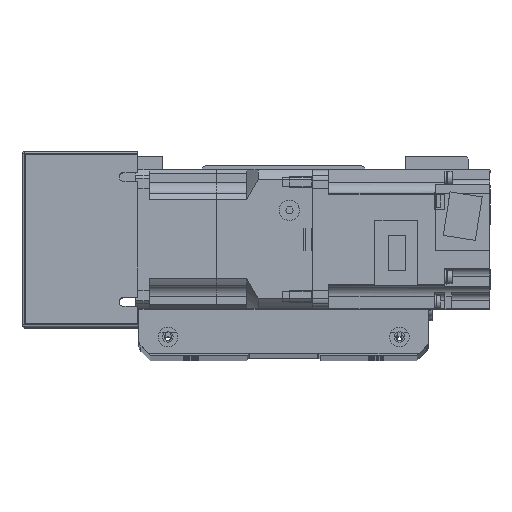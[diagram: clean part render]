
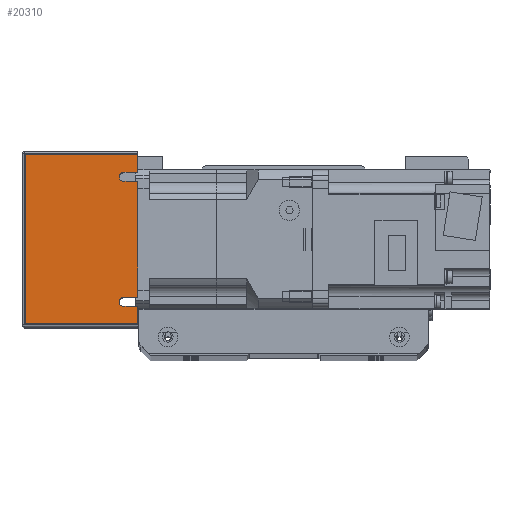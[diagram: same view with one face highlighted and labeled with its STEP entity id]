
A CAD part, top view. The second image highlights one B-rep face of the part: STEP entity #20310.
In plain terms, the highlighted planar face has unit normal (0, 0, 1) as drawn and (-1, 0, 0) by its records, which use the part's own axes.
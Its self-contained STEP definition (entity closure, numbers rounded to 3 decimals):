
#706=PLANE('',#22516);
#2036=LINE('',#34406,#3660);
#2045=LINE('',#34425,#3669);
#2052=LINE('',#34442,#3676);
#2060=LINE('',#34460,#3684);
#2073=LINE('',#34499,#3697);
#2078=LINE('',#34511,#3702);
#2082=LINE('',#34523,#3706);
#2085=LINE('',#34533,#3709);
#2086=LINE('',#34535,#3710);
#2087=LINE('',#34536,#3711);
#3660=VECTOR('',#27893,10.);
#3669=VECTOR('',#27906,10.);
#3676=VECTOR('',#27917,10.);
#3684=VECTOR('',#27929,10.);
#3697=VECTOR('',#27972,10.);
#3702=VECTOR('',#27983,10.);
#3706=VECTOR('',#27993,10.);
#3709=VECTOR('',#28004,10.);
#3710=VECTOR('',#28005,10.);
#3711=VECTOR('',#28006,10.);
#6088=FACE_OUTER_BOUND('',#7736,.T.);
#7736=EDGE_LOOP('',(#18237,#18238,#18239,#18240,#18241,#18242,#18243,#18244,
#18245,#18246,#18247,#18248));
#8900=CIRCLE('',#22494,2.);
#8905=CIRCLE('',#22502,2.);
#10613=VERTEX_POINT('',#34403);
#10614=VERTEX_POINT('',#34405);
#10620=VERTEX_POINT('',#34419);
#10622=VERTEX_POINT('',#34423);
#10629=VERTEX_POINT('',#34439);
#10630=VERTEX_POINT('',#34441);
#10637=VERTEX_POINT('',#34457);
#10638=VERTEX_POINT('',#34459);
#10649=VERTEX_POINT('',#34497);
#10658=VERTEX_POINT('',#34522);
#10661=VERTEX_POINT('',#34532);
#10662=VERTEX_POINT('',#34534);
#13188=EDGE_CURVE('',#10614,#10613,#2036,.T.);
#13197=EDGE_CURVE('',#10620,#10622,#2045,.T.);
#13204=EDGE_CURVE('',#10630,#10629,#2052,.T.);
#13212=EDGE_CURVE('',#10638,#10637,#2060,.T.);
#13218=EDGE_CURVE('',#10622,#10614,#8900,.T.);
#13229=EDGE_CURVE('',#10637,#10630,#8905,.T.);
#13234=EDGE_CURVE('',#10649,#10629,#2073,.T.);
#13241=EDGE_CURVE('',#10638,#10613,#2078,.T.);
#13247=EDGE_CURVE('',#10620,#10658,#2082,.T.);
#13252=EDGE_CURVE('',#10661,#10649,#2085,.T.);
#13253=EDGE_CURVE('',#10662,#10661,#2086,.T.);
#13254=EDGE_CURVE('',#10658,#10662,#2087,.T.);
#18237=ORIENTED_EDGE('',*,*,#13188,.T.);
#18238=ORIENTED_EDGE('',*,*,#13241,.F.);
#18239=ORIENTED_EDGE('',*,*,#13212,.T.);
#18240=ORIENTED_EDGE('',*,*,#13229,.T.);
#18241=ORIENTED_EDGE('',*,*,#13204,.T.);
#18242=ORIENTED_EDGE('',*,*,#13234,.F.);
#18243=ORIENTED_EDGE('',*,*,#13252,.F.);
#18244=ORIENTED_EDGE('',*,*,#13253,.F.);
#18245=ORIENTED_EDGE('',*,*,#13254,.F.);
#18246=ORIENTED_EDGE('',*,*,#13247,.F.);
#18247=ORIENTED_EDGE('',*,*,#13197,.T.);
#18248=ORIENTED_EDGE('',*,*,#13218,.T.);
#20310=ADVANCED_FACE('',(#6088),#706,.T.);
#22494=AXIS2_PLACEMENT_3D('',#34472,#27939,#27940);
#22502=AXIS2_PLACEMENT_3D('',#34490,#27961,#27962);
#22516=AXIS2_PLACEMENT_3D('',#34531,#28002,#28003);
#27893=DIRECTION('',(0.,0.,1.));
#27906=DIRECTION('',(0.,0.,-1.));
#27917=DIRECTION('',(0.,0.,1.));
#27929=DIRECTION('',(0.,0.,-1.));
#27939=DIRECTION('center_axis',(1.,0.,0.));
#27940=DIRECTION('ref_axis',(0.,0.,1.));
#27961=DIRECTION('center_axis',(1.,0.,0.));
#27962=DIRECTION('ref_axis',(0.,0.,1.));
#27972=DIRECTION('',(0.,-1.,0.));
#27983=DIRECTION('',(0.,-1.,0.));
#27993=DIRECTION('',(0.,-1.,0.));
#28002=DIRECTION('center_axis',(-1.,0.,0.));
#28003=DIRECTION('ref_axis',(0.,-1.,0.));
#28004=DIRECTION('',(0.,0.,1.));
#28005=DIRECTION('',(0.,1.,0.));
#28006=DIRECTION('',(0.,0.,-1.));
#34403=CARTESIAN_POINT('',(-91.,-25.,25.));
#34405=CARTESIAN_POINT('',(-91.,-25.,19.));
#34406=CARTESIAN_POINT('',(-91.,-25.,9.5));
#34419=CARTESIAN_POINT('',(-91.,-29.,25.));
#34423=CARTESIAN_POINT('',(-91.,-29.,19.));
#34425=CARTESIAN_POINT('',(-91.,-29.,15.178));
#34439=CARTESIAN_POINT('',(-91.,29.,25.));
#34441=CARTESIAN_POINT('',(-91.,29.,19.));
#34442=CARTESIAN_POINT('',(-91.,29.,9.5));
#34457=CARTESIAN_POINT('',(-91.,25.,19.));
#34459=CARTESIAN_POINT('',(-91.,25.,25.));
#34460=CARTESIAN_POINT('',(-91.,25.,15.178));
#34472=CARTESIAN_POINT('Origin',(-91.,-27.,19.));
#34490=CARTESIAN_POINT('Origin',(-91.,27.,19.));
#34497=CARTESIAN_POINT('',(-91.,37.,25.));
#34499=CARTESIAN_POINT('',(-91.,-38.,25.));
#34511=CARTESIAN_POINT('',(-91.,-38.,25.));
#34522=CARTESIAN_POINT('',(-91.,-37.,25.));
#34523=CARTESIAN_POINT('',(-91.,-38.,25.));
#34531=CARTESIAN_POINT('Origin',(-91.,38.,0.));
#34532=CARTESIAN_POINT('',(-91.,37.,-24.));
#34533=CARTESIAN_POINT('',(-91.,37.,0.));
#34534=CARTESIAN_POINT('',(-91.,-37.,-24.));
#34535=CARTESIAN_POINT('',(-91.,19.,-24.));
#34536=CARTESIAN_POINT('',(-91.,-37.,0.));
